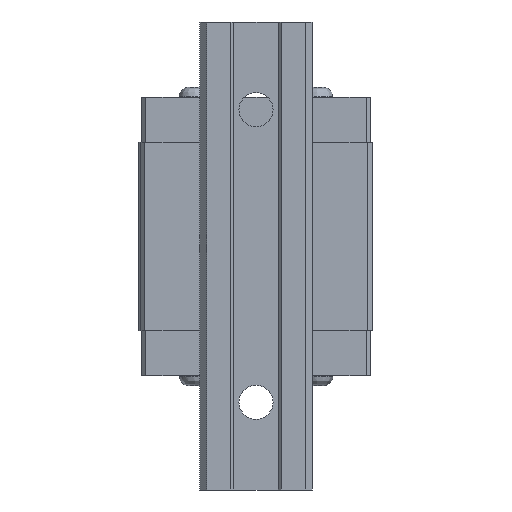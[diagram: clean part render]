
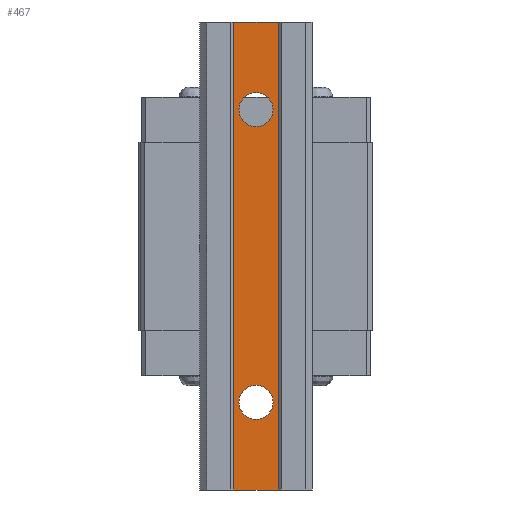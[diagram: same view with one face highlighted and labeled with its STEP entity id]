
A CAD part, front view. The second image highlights one B-rep face of the part: STEP entity #467.
In plain terms, the highlighted planar face has unit normal (0, -1, 0).
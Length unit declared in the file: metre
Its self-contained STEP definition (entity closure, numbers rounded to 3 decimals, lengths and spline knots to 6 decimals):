
#467 = ADVANCED_FACE( '', ( #998, #999, #1000 ), #1001, .F. );
#998 = FACE_BOUND( '', #1718, .T. );
#999 = FACE_BOUND( '', #1719, .T. );
#1000 = FACE_OUTER_BOUND( '', #1720, .T. );
#1001 = PLANE( '', #1721 );
#1718 = EDGE_LOOP( '', ( #2917 ) );
#1719 = EDGE_LOOP( '', ( #2918 ) );
#1720 = EDGE_LOOP( '', ( #2919, #2920, #2921, #2922 ) );
#1721 = AXIS2_PLACEMENT_3D( '', #2923, #2924, #2925 );
#2917 = ORIENTED_EDGE( '', *, *, #3761, .F. );
#2918 = ORIENTED_EDGE( '', *, *, #3672, .F. );
#2919 = ORIENTED_EDGE( '', *, *, #3762, .T. );
#2920 = ORIENTED_EDGE( '', *, *, #3763, .F. );
#2921 = ORIENTED_EDGE( '', *, *, #3484, .F. );
#2922 = ORIENTED_EDGE( '', *, *, #3548, .T. );
#2923 = CARTESIAN_POINT( '', ( 0.0046, 0.0006, -0.096 ) );
#2924 = DIRECTION( '', ( 0., 1., 0. ) );
#2925 = DIRECTION( '', ( 1., 0., 0. ) );
#3484 = EDGE_CURVE( '', #4173, #4175, #4176, .T. );
#3548 = EDGE_CURVE( '', #4173, #4275, #4277, .T. );
#3672 = EDGE_CURVE( '', #4451, #4451, #4452, .T. );
#3761 = EDGE_CURVE( '', #4565, #4565, #4566, .T. );
#3762 = EDGE_CURVE( '', #4275, #4567, #4568, .T. );
#3763 = EDGE_CURVE( '', #4175, #4567, #4569, .T. );
#4173 = VERTEX_POINT( '', #5111 );
#4175 = VERTEX_POINT( '', #5114 );
#4176 = LINE( '', #5115, #5116 );
#4275 = VERTEX_POINT( '', #5255 );
#4277 = LINE( '', #5258, #5259 );
#4451 = VERTEX_POINT( '', #5513 );
#4452 = CIRCLE( '', #5514, 0.0035 );
#4565 = VERTEX_POINT( '', #5666 );
#4566 = CIRCLE( '', #5667, 0.0035 );
#4567 = VERTEX_POINT( '', #5668 );
#4568 = LINE( '', #5669, #5670 );
#4569 = LINE( '', #5671, #5672 );
#5111 = CARTESIAN_POINT( '', ( 0.0046, 0.0006, -0.096 ) );
#5114 = CARTESIAN_POINT( '', ( -0.0046, 0.0006, -0.096 ) );
#5115 = CARTESIAN_POINT( '', ( 0.0046, 0.0006, -0.096 ) );
#5116 = VECTOR( '', #5979, 1. );
#5255 = CARTESIAN_POINT( '', ( 0.0046, 0.0006, 0. ) );
#5258 = CARTESIAN_POINT( '', ( 0.0046, 0.0006, -0.096 ) );
#5259 = VECTOR( '', #6051, 1. );
#5513 = CARTESIAN_POINT( '', ( 0.0035, 0.0006, -0.018 ) );
#5514 = AXIS2_PLACEMENT_3D( '', #6150, #6151, #6152 );
#5666 = CARTESIAN_POINT( '', ( 0.0035, 0.0006, -0.078 ) );
#5667 = AXIS2_PLACEMENT_3D( '', #6231, #6232, #6233 );
#5668 = CARTESIAN_POINT( '', ( -0.0046, 0.0006, 0. ) );
#5669 = CARTESIAN_POINT( '', ( 0.0046, 0.0006, 0. ) );
#5670 = VECTOR( '', #6234, 1. );
#5671 = CARTESIAN_POINT( '', ( -0.0046, 0.0006, -0.096 ) );
#5672 = VECTOR( '', #6235, 1. );
#5979 = DIRECTION( '', ( -1., 0., 0. ) );
#6051 = DIRECTION( '', ( 0., 0., 1. ) );
#6150 = CARTESIAN_POINT( '', ( 0., 0.0006, -0.018 ) );
#6151 = DIRECTION( '', ( 0., -1., 0. ) );
#6152 = DIRECTION( '', ( 1., 0., 0. ) );
#6231 = CARTESIAN_POINT( '', ( 0., 0.0006, -0.078 ) );
#6232 = DIRECTION( '', ( 0., -1., 0. ) );
#6233 = DIRECTION( '', ( 1., 0., 0. ) );
#6234 = DIRECTION( '', ( -1., 0., 0. ) );
#6235 = DIRECTION( '', ( 0., 0., 1. ) );
